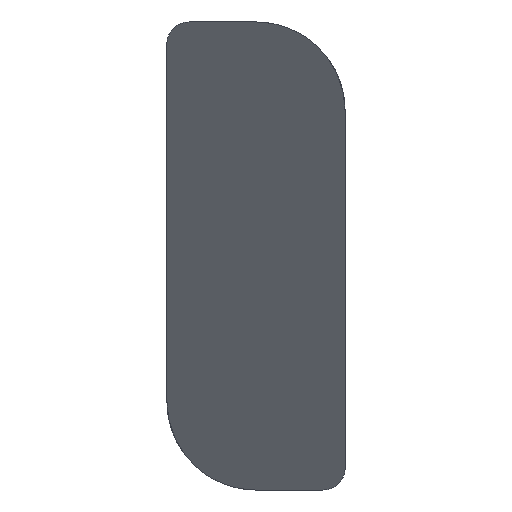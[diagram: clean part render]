
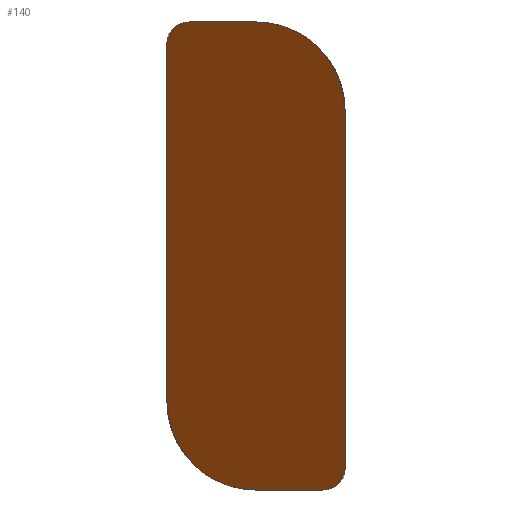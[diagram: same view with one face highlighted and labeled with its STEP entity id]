
A CAD part, left-side view. The second image highlights one B-rep face of the part: STEP entity #140.
In plain terms, the highlighted planar face has unit normal (-0.766, 0, -0.643).
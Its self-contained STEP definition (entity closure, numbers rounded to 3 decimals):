
#8 = CARTESIAN_POINT ( 'NONE',  ( -6.189, 2., -5.25 ) ) ;
#16 = CARTESIAN_POINT ( 'NONE',  ( -15., 2., 5.25 ) ) ;
#25 = ORIENTED_EDGE ( 'NONE', *, *, #829, .T. ) ;
#31 = ORIENTED_EDGE ( 'NONE', *, *, #759, .F. ) ;
#45 = EDGE_CURVE ( 'NONE', #1094, #532, #696, .T. ) ;
#47 = LINE ( 'NONE', #723, #952 ) ;
#79 = CARTESIAN_POINT ( 'NONE',  ( -14.58, 4., 4.75 ) ) ;
#101 = CARTESIAN_POINT ( 'NONE',  ( -7.868, 4., -3.25 ) ) ;
#140 = ADVANCED_FACE ( 'NONE', ( #783 ), #868, .F. ) ;
#185 =( BOUNDED_CURVE ( )  B_SPLINE_CURVE ( 3, ( #395, #597, #685, #16 ),
 .UNSPECIFIED., .F., .F. ) 
 B_SPLINE_CURVE_WITH_KNOTS ( ( 4, 4 ),
 ( 4.712, 6.283 ),
 .UNSPECIFIED. ) 
 CURVE ( )  GEOMETRIC_REPRESENTATION_ITEM ( )  RATIONAL_B_SPLINE_CURVE ( ( 1., 0.805, 0.805, 1. ) ) 
 REPRESENTATION_ITEM ( '' )  );
#187 = CARTESIAN_POINT ( 'NONE',  ( -6.885, 4., -4.422 ) ) ;
#191 = CARTESIAN_POINT ( 'NONE',  ( -6.189, 3.172, -5.25 ) ) ;
#211 = AXIS2_PLACEMENT_3D ( 'NONE', #1054, #290, #384 ) ;
#239 = CARTESIAN_POINT ( 'NONE',  ( -15., 3.793, 5.25 ) ) ;
#259 = CARTESIAN_POINT ( 'NONE',  ( -6.189, 0.5, -5.25 ) ) ;
#276 = ORIENTED_EDGE ( 'NONE', *, *, #934, .T. ) ;
#290 = DIRECTION ( 'NONE',  ( 0.766, 0., 0.643 ) ) ;
#296 = VECTOR ( 'NONE', #463, 1000. ) ;
#313 = ORIENTED_EDGE ( 'NONE', *, *, #845, .T. ) ;
#347 = CARTESIAN_POINT ( 'NONE',  ( -6.189, 0.207, -5.25 ) ) ;
#348 = ORIENTED_EDGE ( 'NONE', *, *, #45, .T. ) ;
#362 = DIRECTION ( 'NONE',  ( -0.643, 0., 0.766 ) ) ;
#377 = VERTEX_POINT ( 'NONE', #692 ) ;
#384 = DIRECTION ( 'NONE',  ( 0.643, 0., -0.766 ) ) ;
#385 = EDGE_CURVE ( 'NONE', #532, #1015, #185, .T. ) ;
#392 = CARTESIAN_POINT ( 'NONE',  ( -6.363, 0., -5.043 ) ) ;
#395 = CARTESIAN_POINT ( 'NONE',  ( -13.322, 0., 3.25 ) ) ;
#440 = CARTESIAN_POINT ( 'NONE',  ( -14.826, 4., 5.043 ) ) ;
#453 = VERTEX_POINT ( 'NONE', #487 ) ;
#463 = DIRECTION ( 'NONE',  ( 0., -1., 0. ) ) ;
#464 = CARTESIAN_POINT ( 'NONE',  ( -15., 0., 5.25 ) ) ;
#468 = LINE ( 'NONE', #1136, #296 ) ;
#487 = CARTESIAN_POINT ( 'NONE',  ( -15., 3.5, 5.25 ) ) ;
#531 = DIRECTION ( 'NONE',  ( 0., -1., 0. ) ) ;
#532 = VERTEX_POINT ( 'NONE', #908 ) ;
#541 = DIRECTION ( 'NONE',  ( -0.643, 0., 0.766 ) ) ;
#590 = LINE ( 'NONE', #655, #1150 ) ;
#597 = CARTESIAN_POINT ( 'NONE',  ( -14.305, 0., 4.422 ) ) ;
#632 = VERTEX_POINT ( 'NONE', #79 ) ;
#633 =( BOUNDED_CURVE ( )  B_SPLINE_CURVE ( 3, ( #259, #347, #392, #944 ),
 .UNSPECIFIED., .F., .F. ) 
 B_SPLINE_CURVE_WITH_KNOTS ( ( 4, 4 ),
 ( 0., 1.571 ),
 .UNSPECIFIED. ) 
 CURVE ( )  GEOMETRIC_REPRESENTATION_ITEM ( )  RATIONAL_B_SPLINE_CURVE ( ( 1., 0.805, 0.805, 1. ) ) 
 REPRESENTATION_ITEM ( '' )  );
#655 = CARTESIAN_POINT ( 'NONE',  ( -15., 4., 5.25 ) ) ;
#685 = CARTESIAN_POINT ( 'NONE',  ( -15., 0.828, 5.25 ) ) ;
#692 = CARTESIAN_POINT ( 'NONE',  ( -6.189, 0.5, -5.25 ) ) ;
#696 = LINE ( 'NONE', #464, #998 ) ;
#700 = VERTEX_POINT ( 'NONE', #734 ) ;
#723 = CARTESIAN_POINT ( 'NONE',  ( -6.189, 4., -5.25 ) ) ;
#734 = CARTESIAN_POINT ( 'NONE',  ( -7.868, 4., -3.25 ) ) ;
#759 = EDGE_CURVE ( 'NONE', #700, #632, #590, .T. ) ;
#783 = FACE_OUTER_BOUND ( 'NONE', #909, .T. ) ;
#807 = ORIENTED_EDGE ( 'NONE', *, *, #1027, .F. ) ;
#808 = CARTESIAN_POINT ( 'NONE',  ( -6.189, 2., -5.25 ) ) ;
#821 = EDGE_CURVE ( 'NONE', #453, #632, #980, .T. ) ;
#825 = CARTESIAN_POINT ( 'NONE',  ( -15., 3.5, 5.25 ) ) ;
#829 = EDGE_CURVE ( 'NONE', #377, #1094, #633, .T. ) ;
#838 = CARTESIAN_POINT ( 'NONE',  ( -6.609, 0., -4.75 ) ) ;
#845 = EDGE_CURVE ( 'NONE', #700, #1005, #1076, .T. ) ;
#868 = PLANE ( 'NONE',  #211 ) ;
#908 = CARTESIAN_POINT ( 'NONE',  ( -13.322, 0., 3.25 ) ) ;
#909 = EDGE_LOOP ( 'NONE', ( #276, #25, #348, #1022, #807, #1020, #31, #313 ) ) ;
#934 = EDGE_CURVE ( 'NONE', #1005, #377, #47, .T. ) ;
#944 = CARTESIAN_POINT ( 'NONE',  ( -6.609, 0., -4.75 ) ) ;
#952 = VECTOR ( 'NONE', #531, 1000. ) ;
#980 =( BOUNDED_CURVE ( )  B_SPLINE_CURVE ( 3, ( #825, #239, #440, #1116 ),
 .UNSPECIFIED., .F., .F. ) 
 B_SPLINE_CURVE_WITH_KNOTS ( ( 4, 4 ),
 ( 3.142, 4.712 ),
 .UNSPECIFIED. ) 
 CURVE ( )  GEOMETRIC_REPRESENTATION_ITEM ( )  RATIONAL_B_SPLINE_CURVE ( ( 1., 0.805, 0.805, 1. ) ) 
 REPRESENTATION_ITEM ( '' )  );
#998 = VECTOR ( 'NONE', #362, 1000. ) ;
#1005 = VERTEX_POINT ( 'NONE', #808 ) ;
#1015 = VERTEX_POINT ( 'NONE', #1018 ) ;
#1018 = CARTESIAN_POINT ( 'NONE',  ( -15., 2., 5.25 ) ) ;
#1020 = ORIENTED_EDGE ( 'NONE', *, *, #821, .T. ) ;
#1022 = ORIENTED_EDGE ( 'NONE', *, *, #385, .T. ) ;
#1027 = EDGE_CURVE ( 'NONE', #453, #1015, #468, .T. ) ;
#1054 = CARTESIAN_POINT ( 'NONE',  ( -15., 4., 5.25 ) ) ;
#1076 =( BOUNDED_CURVE ( )  B_SPLINE_CURVE ( 3, ( #101, #187, #191, #8 ),
 .UNSPECIFIED., .F., .F. ) 
 B_SPLINE_CURVE_WITH_KNOTS ( ( 4, 4 ),
 ( 1.571, 3.142 ),
 .UNSPECIFIED. ) 
 CURVE ( )  GEOMETRIC_REPRESENTATION_ITEM ( )  RATIONAL_B_SPLINE_CURVE ( ( 1., 0.805, 0.805, 1. ) ) 
 REPRESENTATION_ITEM ( '' )  );
#1094 = VERTEX_POINT ( 'NONE', #838 ) ;
#1116 = CARTESIAN_POINT ( 'NONE',  ( -14.58, 4., 4.75 ) ) ;
#1136 = CARTESIAN_POINT ( 'NONE',  ( -15., 4., 5.25 ) ) ;
#1150 = VECTOR ( 'NONE', #541, 1000. ) ;
